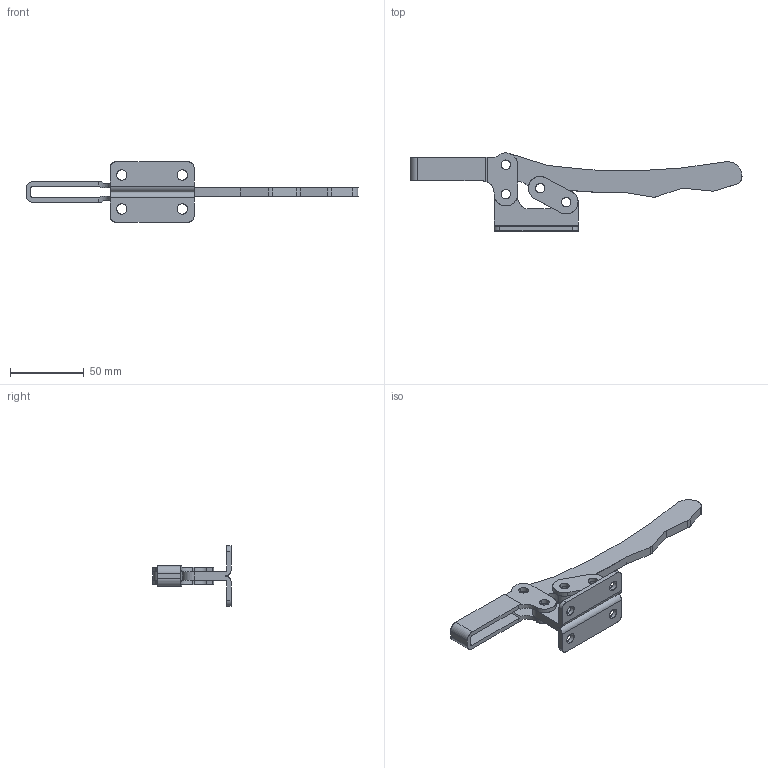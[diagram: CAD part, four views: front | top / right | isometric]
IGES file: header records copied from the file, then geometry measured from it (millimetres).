
Start section: SolidWorks IGES file using analytic representation for surfaces
Global section: file name: D:\GH Files\GH-DWG-FILES\dwg零件\GH-2\203f\3d\203P.IGS,4; native system: 1HSolidWorks 2006 by SolidWorks Corporation; preprocessor: SolidWorks 2006 by SolidWorks Corporation; author: Administrator; date: 060824.141714; units: millimetre
Bounding box: 225.21 x 53 x 41 mm (x, y, z)
Surface area: 25675.8 mm2 (no closed solid volume)
Topology: 0 solids, 0 shells, 122 faces, 2330 edges, 2330 vertices
Faces by surface type: revolution 74, bspline 48
